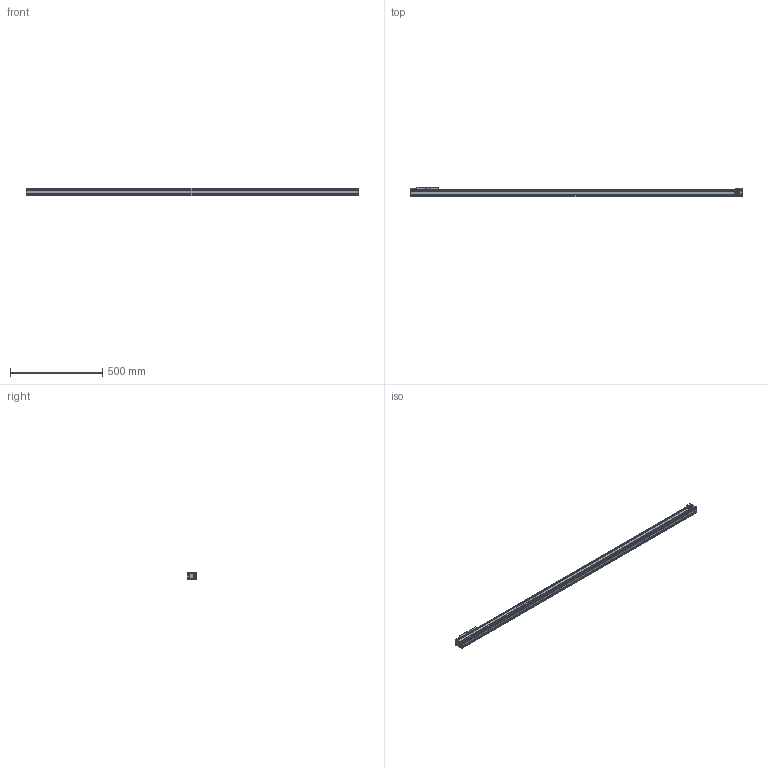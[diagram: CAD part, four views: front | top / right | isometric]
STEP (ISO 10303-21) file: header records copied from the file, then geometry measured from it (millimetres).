
FILE_DESCRIPTION(('STEP AP203'),'1');
FILE_NAME(' ',' ',('TraceParts'),('TraceParts S.A.'),'XStep 1.0',' ',' ');
FILE_SCHEMA(('CONFIG_CONTROL_DESIGN'));
Length unit declared in the file: millimetre
Products named in the file (2): 1; 2
Bounding box: 1804 x 53 x 40.01 mm (x, y, z)
Volume: 2617507.6 mm3; surface area: 441507.5 mm2
Topology: 2 solids, 2 shells, 1687 faces, 5024 edges, 3273 vertices
Faces by surface type: cylinder 732, plane 471, torus 260, sphere 116, cone 108
Entity records: 81711 total; most frequent: CARTESIAN_POINT 34564, DIRECTION 10675, ORIENTED_EDGE 9992, EDGE_CURVE 4996, AXIS2_PLACEMENT_3D 4456, VERTEX_POINT 3273, CIRCLE 2761, EDGE_LOOP 1765
